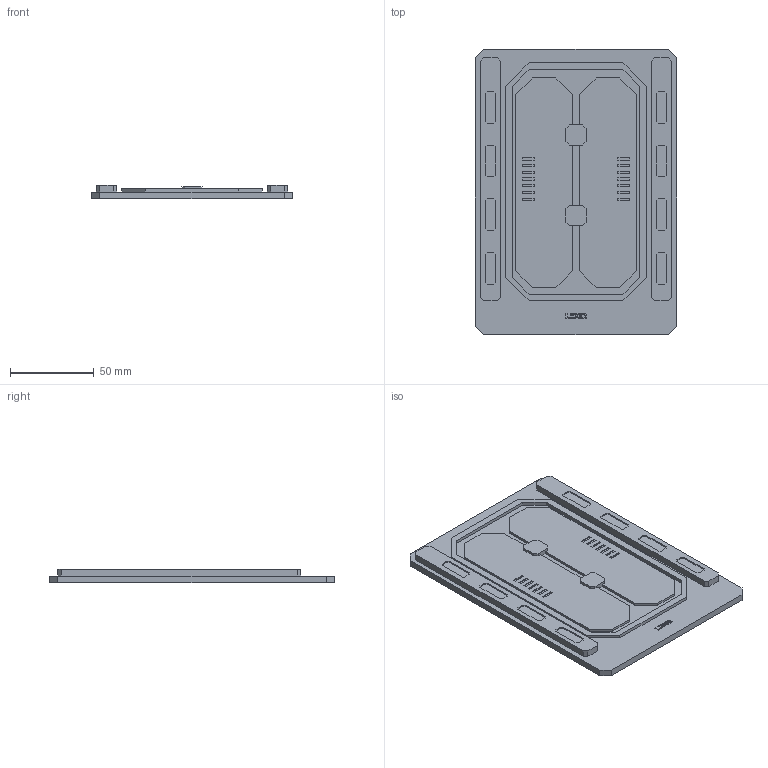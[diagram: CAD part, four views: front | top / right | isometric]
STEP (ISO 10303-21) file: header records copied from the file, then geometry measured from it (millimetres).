
FILE_DESCRIPTION(('Open CASCADE Model'),'2;1');
FILE_NAME('Open CASCADE Shape Model','2026-10-02T13:48:50',('Author'),( 'Open CASCADE'),'Open CASCADE STEP processor 7.8','Open CASCADE 7.8' ,'Unknown');
FILE_SCHEMA(('AUTOMOTIVE_DESIGN { 1 0 10303 214 1 1 1 1 }'));
Length unit declared in the file: millimetre
Products named in the file (1): Open CASCADE STEP translator 7.8 9
Bounding box: 120 x 170 x 8 mm (x, y, z)
Volume: 110119.4 mm3; surface area: 48636.2 mm2
Topology: 1 solids, 1 shells, 335 faces, 885 edges, 590 vertices
Faces by surface type: plane 295, extrusion 40
Entity records: 21246 total; most frequent: CARTESIAN_POINT 4469, DIRECTION 2639, VECTOR 2047, LINE 2007, ORIENTED_EDGE 1770, PCURVE 1770, DEFINITIONAL_REPRESENTATION 1770, EDGE_CURVE 885
